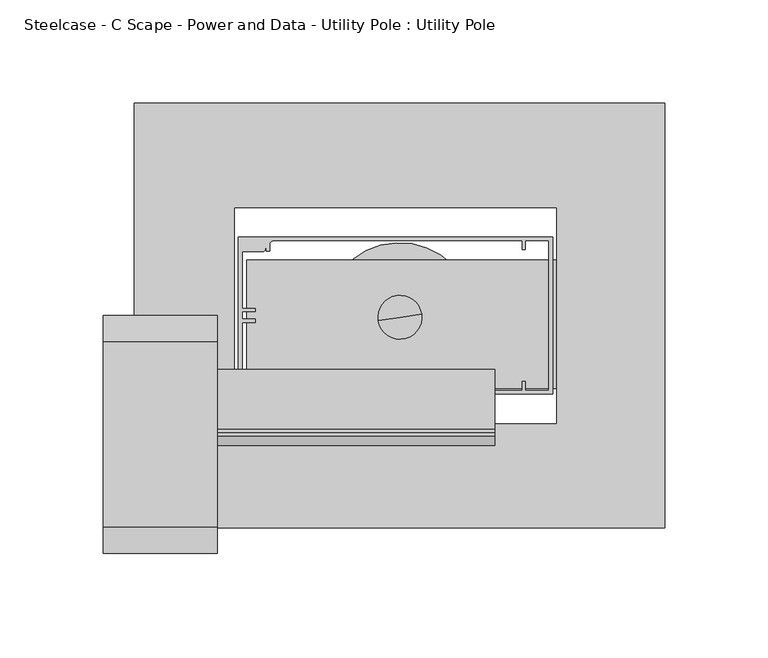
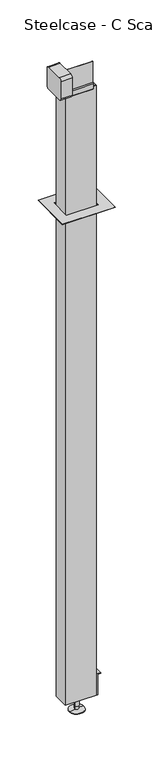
"""IFC4 building model written with IfcOpenShell, lengths in millimetres: furniture geometry, Steelcase - C Scape - Power and Data - Utility Pole : Utility Pole."""

from ifc_helpers import new_model, si_unit, point, frame, frame_2d, origin, place, context, project, spatial, polyline, circle_curve, trimmed, segment, composite_curve, outline, extrude, source, transform, mapped, element, save
from ifc_brep_helpers import plane_surface, cylinder_surface, revolved_surface, advanced_brep


def steelcase_c_scape_power_and_data_utility_pole_utility_pole_6348a0d5(model_context):
    return source(origin(), model_context, "Body", "SolidModel", [
        extrude(outline(polyline([(257.4543979, 0.0), (257.4543979, -206.2480031), (0.0, -206.2480031), (0.0, 0.0), (257.4543979, 0.0)]), holes=[polyline([(204.6859074, -50.8000015), (48.8187998, -50.8000015), (48.8187998, -155.4479971), (204.6859074, -155.4479971), (204.6859074, -50.8000015)])]), frame((0.0, 0.0, 2612.135907), z_axis=(0.0, 0.0, 1.0), x_axis=(1.0, 0.0, 0.0)), (0.0, 0.0, 1.0), 0.762093),
        extrude(outline(polyline([(178.9430019, 226.7331081), (178.9430019, 207.7085063), (72.8979986, 207.7085063), (72.8979986, 54.5084), (69.723, 54.5084), (69.723, 212.153493), (175.7679959, 212.153493), (175.7679959, 226.7331081), (178.9430019, 226.7331081)])), frame((0.0, -138.049, 0.0), z_axis=(0.0, 1.0, 0.0), x_axis=(0.0, 0.0, 1.0)), (0.0, 0.0, 1.0), 62.357),
        extrude(outline(polyline([(-158.5976, 3223.9965248), (-129.3622, 3223.9965248), (-129.3622, 3222.498), (-160.0962, 3222.498), (-160.0962, 3257.524717), (-164.7698, 3252.2160227), (-164.7698, 3228.721), (-166.2684, 3228.721), (-166.2684, 3252.7816863), (-161.5948, 3258.0903805), (-161.5948, 3367.7098), (-160.0962, 3367.7098), (-160.0962, 3343.8338), (-158.5976, 3343.8338), (-158.5976, 3223.9965248)])), frame((24.7015, 0.0, 0.0), z_axis=(1.0, 0.0, 0.0), x_axis=(0.0, 1.0, 0.0)), (0.0, 0.0, 1.0), 150.114),
        extrude(outline(composite_curve([segment(polyline([(-206.0194076, 3376.4221046), (-115.8240016, 3376.4221046)]), True, "CONTINUOUS"), segment(trimmed(circle_curve(frame_2d((-115.8240016, 3363.7221046)), 12.7), [point((-115.8240016, 3376.4221046))], [point((-103.1240016, 3363.7221046))], False, "CARTESIAN"), True, "CONTINUOUS"), segment(polyline([(-103.1240016, 3363.7221046), (-103.1240016, 3274.0854)]), True, "CONTINUOUS"), segment(trimmed(circle_curve(frame_2d((-115.8240016, 3274.0854)), 12.7), [point((-103.1240016, 3274.0854))], [point((-115.8240016, 3261.3854))], False, "CARTESIAN"), True, "CONTINUOUS"), segment(polyline([(-115.8240016, 3261.3854), (-206.0194076, 3261.3854)]), True, "CONTINUOUS"), segment(trimmed(circle_curve(frame_2d((-206.0194076, 3274.0854)), 12.7), [point((-206.0194076, 3261.3854))], [point((-218.7194076, 3274.0854))], False, "CARTESIAN"), True, "CONTINUOUS"), segment(polyline([(-218.7194076, 3274.0854), (-218.7194076, 3363.7221046)]), True, "CONTINUOUS"), segment(trimmed(circle_curve(frame_2d((-206.0194076, 3363.7221046)), 12.7), [point((-218.7194076, 3363.7221046))], [point((-206.0194076, 3376.4221046))], False, "CARTESIAN"), True, "CONTINUOUS")], self_intersect=False)), frame((-15.1511, 0.0, 0.0), z_axis=(1.0, 0.0, 0.0), x_axis=(0.0, 1.0, 0.0)), (0.0, 0.0, 1.0), 55.4736),
        extrude(outline(polyline([(50.546, -65.024), (202.9587, -65.024), (202.9587, -141.224), (50.546, -141.224), (50.546, -65.024)]), holes=[composite_curve([segment(polyline([(200.9394, -139.1920035), (200.9394, -67.0559996), (189.915806, -67.0559996), (189.915806, -71.297801), (187.8838079, -71.297801), (187.8838079, -67.0559996), (67.4369993, -67.0559996)]), True, "CONTINUOUS"), segment(trimmed(circle_curve(frame_2d((67.4369993, -68.5799982)), 1.5239985), [point((67.4369993, -67.0559996))], [point((65.9130007, -68.5799982))], True, "CARTESIAN"), True, "CONTINUOUS"), segment(polyline([(65.9130007, -68.5799982), (65.9130007, -72.1359993), (63.8809981, -72.1359993), (63.8809981, -70.7390007)]), True, "CONTINUOUS"), segment(trimmed(circle_curve(frame_2d((62.2299997, -70.7390007)), 1.6509984), [point((63.8809981, -70.7390007))], [point((62.2299997, -72.3899991))], False, "CARTESIAN"), True, "CONTINUOUS"), segment(polyline([(62.2299997, -72.3899991), (52.5779998, -72.3899991), (52.5779998, -99.5045), (58.9279983, -99.5045), (58.9279983, -101.5365), (52.5779998, -101.5365), (52.5779998, -104.7115), (58.9279983, -104.7115), (58.9279983, -106.7435), (52.578, -106.7435), (52.578, -133.858), (62.23, -133.858)]), True, "CONTINUOUS"), segment(trimmed(circle_curve(frame_2d((62.23, -135.5089981)), 1.6509981), [point((62.23, -133.858))], [point((63.8809981, -135.5089981))], False, "CARTESIAN"), True, "CONTINUOUS"), segment(polyline([(63.8809981, -135.5089981), (63.8809981, -134.1119993), (65.9130007, -134.1119993), (65.9130007, -137.6679959)]), True, "CONTINUOUS"), segment(trimmed(circle_curve(frame_2d((67.4370048, -137.6679959)), 1.5240041), [point((65.9130007, -137.6679959))], [point((67.4370048, -139.192))], True, "CARTESIAN"), True, "CONTINUOUS"), segment(polyline([(67.4370048, -139.192), (187.8838, -139.192), (187.8838, -134.9502021), (189.9158, -134.9502021), (189.9158, -139.1920035), (200.9394, -139.1920035)]), True, "CONTINUOUS")], self_intersect=False)]), frame((0.0, 0.0, 72.898), z_axis=(0.0, 0.0, 1.0), x_axis=(1.0, 0.0, 0.0)), (0.0, 0.0, 1.0), 3149.6000698),
        advanced_brep(
        [(139.3702667, -101.8679793, 139.6104133), (118.3688216, -105.0811976, 139.6104133), (128.8695442, -103.4745884, 139.6104133), (139.3702667, -101.8679793, 25.3104133), (118.3688216, -105.0811976, 25.3104133), (138.0014325, -102.0774107, 25.3104133), (119.7376559, -104.8717662, 25.3104133), (138.0014325, -102.0774107, 8.0866496), (119.7376559, -104.8717662, 8.0866496), (164.6325819, -98.0028483, 5.2550311), (93.1065065, -108.9463286, 5.2550311), (164.6325819, -98.0028483, 2.4472776), (93.1065065, -108.9463286, 2.4472776), (157.9805926, -99.0206018, 0.0), (99.7584957, -107.9285751, 0.0), (128.8695442, -103.4745884, 0.0)],
        [
            (0, 1, circle_curve(frame((128.8695442, -103.4745884, 139.6104133), z_axis=(0.0, 0.0, 1.0), x_axis=(0.0, -1.0, 0.0)), 10.6229171)),
            (1, 2),
            (2, 0),
            (1, 0, circle_curve(frame((128.8695442, -103.4745884, 139.6104133), z_axis=(0.0, 0.0, 1.0), x_axis=(0.0, -1.0, 0.0)), 10.6229171)),
            (3, 4, circle_curve(frame((128.8695442, -103.4745884, 25.3104133), z_axis=(0.0, 0.0, 1.0), x_axis=(0.0, -1.0, 0.0)), 10.6229171)),
            (4, 1),
            (0, 3),
            (4, 3, circle_curve(frame((128.8695442, -103.4745884, 25.3104133), z_axis=(0.0, 0.0, 1.0), x_axis=(0.0, -1.0, 0.0)), 10.6229171)),
            (5, 6, circle_curve(frame((128.8695442, -103.4745884, 25.3104133), z_axis=(0.0, 0.0, 1.0), x_axis=(0.0, -1.0, 0.0)), 9.238154)),
            (6, 4),
            (3, 5),
            (6, 5, circle_curve(frame((128.8695442, -103.4745884, 25.3104133), z_axis=(0.0, 0.0, 1.0), x_axis=(0.0, -1.0, 0.0)), 9.238154)),
            (7, 8, circle_curve(frame((128.8695442, -103.4745884, 8.0866496), z_axis=(0.0, 0.0, 1.0), x_axis=(0.0, -1.0, 0.0)), 9.238154)),
            (8, 6),
            (5, 7),
            (8, 7, circle_curve(frame((128.8695442, -103.4745884, 8.0866496), z_axis=(0.0, 0.0, 1.0), x_axis=(0.0, -1.0, 0.0)), 9.238154)),
            (9, 10, circle_curve(frame((128.8695442, -103.4745884, 5.2550311), z_axis=(0.0, 0.0, 1.0), x_axis=(0.0, -1.0, 0.0)), 36.179204)),
            (10, 8),
            (7, 9),
            (10, 9, circle_curve(frame((128.8695442, -103.4745884, 5.2550311), z_axis=(0.0, 0.0, 1.0), x_axis=(0.0, -1.0, 0.0)), 36.179204)),
            (11, 12, circle_curve(frame((128.8695442, -103.4745884, 2.4472776), z_axis=(0.0, 0.0, 1.0), x_axis=(0.0, -1.0, 0.0)), 36.179204)),
            (12, 10),
            (9, 11),
            (12, 11, circle_curve(frame((128.8695442, -103.4745884, 2.4472776), z_axis=(0.0, 0.0, 1.0), x_axis=(0.0, -1.0, 0.0)), 36.179204)),
            (13, 14, circle_curve(frame((128.8695442, -103.4745884, 0.0), z_axis=(0.0, 0.0, 1.0), x_axis=(0.0, -1.0, 0.0)), 29.4498071)),
            (14, 12),
            (11, 13),
            (14, 13, circle_curve(frame((128.8695442, -103.4745884, 0.0), z_axis=(0.0, 0.0, 1.0), x_axis=(0.0, -1.0, 0.0)), 29.4498071)),
            (15, 14),
            (13, 15),
        ],
        [
            plane_surface(frame((128.8695442, -103.4745884, 139.6104133), z_axis=(0.0, 0.0, 1.0), x_axis=(0.0, -1.0, 0.0))),
            cylinder_surface(frame((128.8695442, -103.4745884, 25.4), z_axis=(0.0, 0.0, -1.0), x_axis=(0.0, -1.0, 0.0)), 10.6229171),
            plane_surface(frame((128.8695442, -103.4745884, 25.3104133), z_axis=(0.0, 0.0, -1.0), x_axis=(0.0, -1.0, 0.0))),
            cylinder_surface(frame((128.8695442, -103.4745884, 25.4), z_axis=(0.0, 0.0, -1.0), x_axis=(0.0, -1.0, 0.0)), 9.238154),
            revolved_surface(polyline([(128.8695442, -112.7127425, 8.0866496), (128.8695442, -139.6537925, 5.2550311)]), (128.8695442, -103.4745884, 25.4), (0.0, 0.0, -1.0)),
            cylinder_surface(frame((128.8695442, -103.4745884, 25.4), z_axis=(0.0, 0.0, -1.0), x_axis=(0.0, -1.0, 0.0)), 36.179204),
            revolved_surface(polyline([(128.8695442, -139.6537925, 2.4472776), (128.8695442, -132.9243956, 0.0)]), (128.8695442, -103.4745884, 25.4), (0.0, 0.0, -1.0)),
            plane_surface(frame((128.8695442, -103.4745884, 0.0), z_axis=(0.0, 0.0, -1.0), x_axis=(0.0, -1.0, 0.0))),
        ],
        [
            (0, [[1, 2, 3]]),
            (0, [[4, -3, -2]]),
            (1, [[5, 6, -1, 7]]),
            (1, [[8, -7, -4, -6]]),
            (2, [[9, 10, -5, 11]]),
            (2, [[12, -11, -8, -10]]),
            (3, [[13, 14, -9, 15]]),
            (3, [[16, -15, -12, -14]]),
            (4, [[17, 18, -13, 19]]),
            (4, [[20, -19, -16, -18]]),
            (5, [[21, 22, -17, 23]]),
            (5, [[24, -23, -20, -22]]),
            (6, [[25, 26, -21, 27]]),
            (6, [[28, -27, -24, -26]]),
            (7, [[29, -25, 30]]),
            (7, [[-30, -28, -29]]),
        ],
    ),
    ])


if __name__ == "__main__":
    model = new_model("IFC4")
    model_context = context("Model", 3, world=origin())
    ifc_project = project(units=[si_unit("LENGTHUNIT", "METRE", prefix="MILLI")], contexts=[model_context])
    site = spatial("IfcSite", under=ifc_project)
    building = spatial("IfcBuilding", under=site)
    placement = place(None, origin())
    steelcase_c_scape_power_and_data_utility_pole_utility_pole_shape = steelcase_c_scape_power_and_data_utility_pole_utility_pole_6348a0d5(model_context)
    element("IfcFurniture", 1, ObjectType="Steelcase - C Scape - Power and Data - Utility Pole : Utility Pole", at=placement, inside=building, context=model_context, shape_type="MappedRepresentation", body=[
        mapped(steelcase_c_scape_power_and_data_utility_pole_utility_pole_shape, transform((0.0, 0.0, 0.0), x_axis=(1.0, 0.0, 0.0), y_axis=(0.0, 1.0, 0.0), z_axis=(0.0, 0.0, 1.0))),
    ])
    save(model, "model.ifc")
